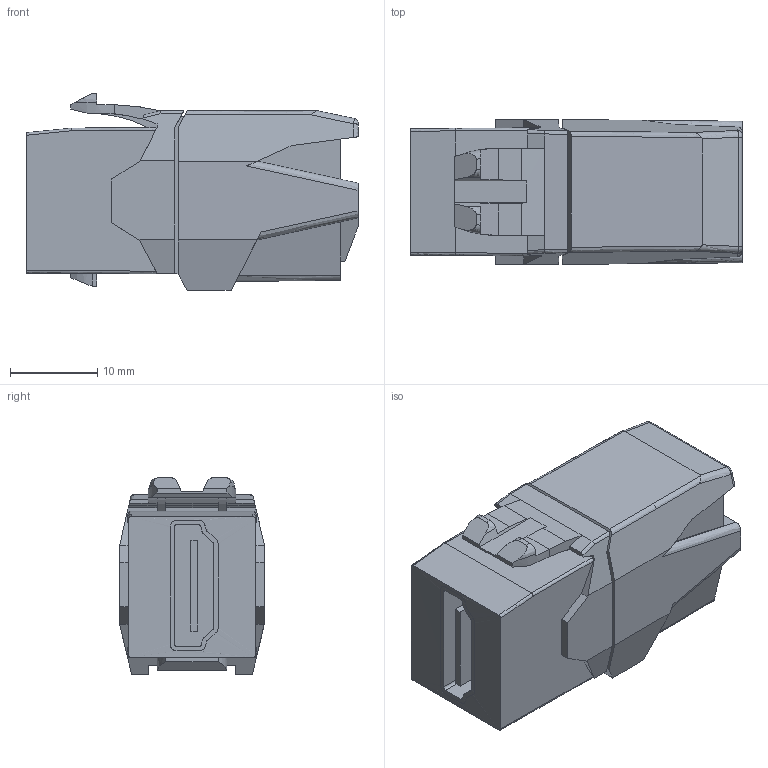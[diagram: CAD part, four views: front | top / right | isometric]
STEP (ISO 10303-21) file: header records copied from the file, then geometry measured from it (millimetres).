
FILE_DESCRIPTION( ('This file contains a STEP AP42 implementation' ,'as created by ZW3D STEP Interface translator.') ,'2;1' );
FILE_NAME( 'TB-024_210HD05G2xx_SD.stp' ,'26 330.134526', (''), ('ZWCAD Software Co.'), 'Version 1.0', 'ZW3D to STEP translator', '' );
FILE_SCHEMA(('AUTOMOTIVE_DESIGN'));
Length unit declared in the file: millimetre
Products named in the file (2): 0; TB-024_210HD05G2xx_SD
Bounding box: 38 x 16.56 x 22.55 mm (x, y, z)
Volume: 9594 mm3; surface area: 4286.5 mm2
Topology: 1 solids, 1 shells, 226 faces, 616 edges, 398 vertices
Faces by surface type: bspline 226
Entity records: 10465 total; most frequent: CARTESIAN_POINT 6493, ORIENTED_EDGE 1232, B_SPLINE_CURVE_WITH_KNOTS 616, EDGE_CURVE 616, VERTEX_POINT 398, EDGE_LOOP 232, FACE_OUTER_BOUND 226, ADVANCED_FACE 226
